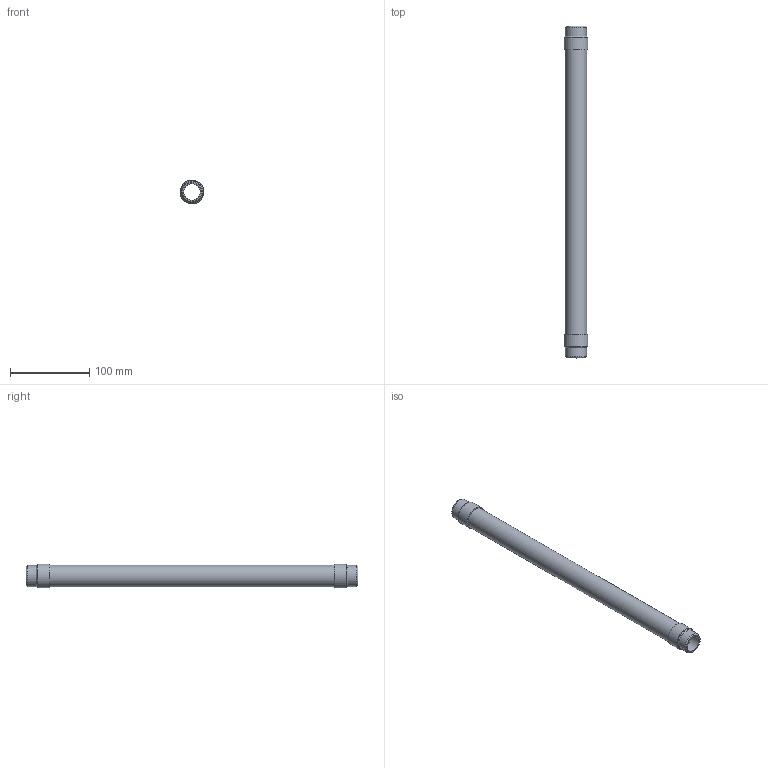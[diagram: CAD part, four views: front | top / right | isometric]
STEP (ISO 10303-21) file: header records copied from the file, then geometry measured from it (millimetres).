
FILE_DESCRIPTION(/* description */ (''),/* implementation_level */ '2;1');
FILE_NAME(/* name */ 'C:\001_Work\Designs\CSAWN\CSAWN-0.75x16.5.stp',/* time_stamp */ '2016-06-04T16:21:40-04:00',/* author */ ('rramoutar'),/* organization */ ('Mason Industries Inc.'),/* preprocessor_version */ 'ST-DEVELOPER v15.6',/* originating_system */ 'Autodesk Inventor 2015',/* authorisation */ '');
FILE_SCHEMA (('CONFIG_CONTROL_DESIGN'));
Length unit declared in the file: inch
Products named in the file (1): CSAWN-0.75x16.5
Bounding box: 29.92 x 419.1 x 29.92 mm (x, y, z)
Volume: 19713.6 mm3; surface area: 77818.6 mm2
Topology: 5 solids, 5 shells, 24 faces, 40 edges, 26 vertices
Faces by surface type: cylinder 10, plane 10, cone 4
Full cylindrical faces by diameter (mm): 20.93 x2, 26.67 x3, 27.28 x1, 27.534 x2, 29.921 x2
Entity records: 564 total; most frequent: DIRECTION 98, CARTESIAN_POINT 73, AXIS2_PLACEMENT_3D 49, EDGE_LOOP 48, ORIENTED_EDGE 48, STYLED_ITEM 29, FACE_BOUND 24, FACE_OUTER_BOUND 24
